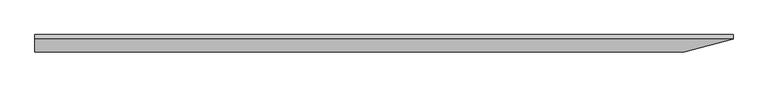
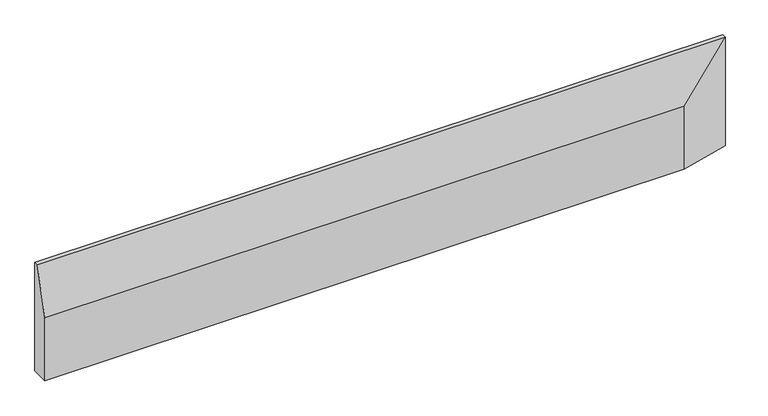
"""IFC4 building model written with IfcOpenShell, lengths in millimetres: proxy geometry, AERO^OFFICE 1_WALL HUNG SHELVES-10x60."""

from ifc_helpers import new_model, si_unit, origin, place, context, project, spatial, faceted_brep, source, transform, mapped, element, save


def generic_models_b56694ea(model_context):
    return source(origin(), model_context, "Body", "Brep", [
        faceted_brep([(1417.3566482, 0.0, -254.0), (1524.0, 28.575, -254.0), (1524.0, 28.575, 0.0), (1417.3566482, 0.0, -106.6433518), (0.0, 0.0, -106.6433518), (0.0, 0.0, -254.0), (0.0, 28.575, 0.0), (0.0, 38.1, 0.0), (0.0, 38.1, -254.0), (1524.0, 38.1, 0.0), (1524.0, 38.1, -254.0)], [[[0, 1, 2, 3]], [[0, 3, 4, 5]], [[3, 2, 6, 4]], [[4, 6, 7, 8, 5]], [[6, 2, 9, 7]], [[1, 0, 5, 8, 10]], [[2, 1, 10, 9]], [[9, 10, 8, 7]]]),
    ])


if __name__ == "__main__":
    model = new_model("IFC4")
    model_context = context("Model", 3, world=origin())
    ifc_project = project(units=[si_unit("LENGTHUNIT", "METRE", prefix="MILLI")], contexts=[model_context])
    site = spatial("IfcSite", under=ifc_project)
    building = spatial("IfcBuilding", under=site)
    placement = place(None, origin())
    generic_models_shape = generic_models_b56694ea(model_context)
    element("IfcBuildingElementProxy", 1, Name="AERO^OFFICE 1_WALL HUNG SHELVES-10x60", ObjectType="AERO^OFFICE 1_WALL HUNG SHELVES-10x60", at=placement, inside=building, context=model_context, shape_type="MappedRepresentation", body=[
        mapped(generic_models_shape, transform((0.0, 0.0, 0.0), x_axis=(1.0, 0.0, 0.0), y_axis=(0.0, 1.0, 0.0), z_axis=(0.0, 0.0, 1.0))),
    ])
    save(model, "model.ifc")
